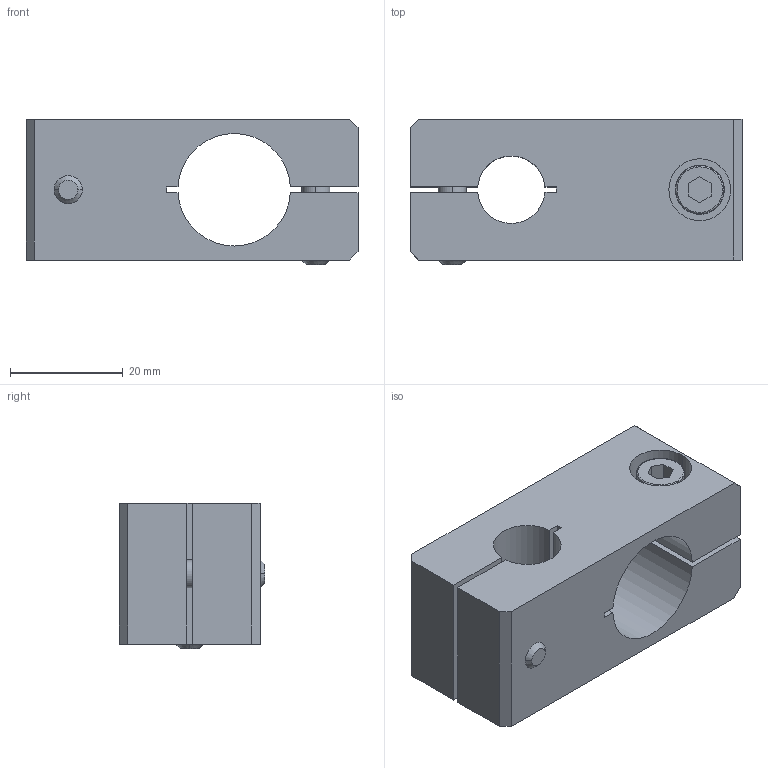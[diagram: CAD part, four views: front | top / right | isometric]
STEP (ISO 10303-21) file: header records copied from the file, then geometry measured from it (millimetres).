
FILE_DESCRIPTION (( 'STEP AP214' ), '1' );
FILE_NAME ('SMBT-2012.STEP', '2019-11-06T05:31:25', ( '微软用户' ), ( '微软中国' ), 'SwSTEP 2.0', 'SolidWorks 2016', '' );
FILE_SCHEMA (( 'AUTOMOTIVE_DESIGN' ));
Length unit declared in the file: millimetre
Products named in the file (1): SMBT-2012
Bounding box: 59 x 25.8 x 25.8 mm (x, y, z)
Volume: 24593.2 mm3; surface area: 12215.2 mm2
Topology: 5 solids, 5 shells, 471 faces, 1363 edges, 902 vertices
Faces by surface type: plane 430, cylinder 33, cone 4, bspline 4
Entity records: 21090 total; most frequent: CARTESIAN_POINT 3007, DIRECTION 2733, ORIENTED_EDGE 2726, EDGE_CURVE 1363, LINE 913, VECTOR 913, AXIS2_PLACEMENT_3D 910, VERTEX_POINT 902
